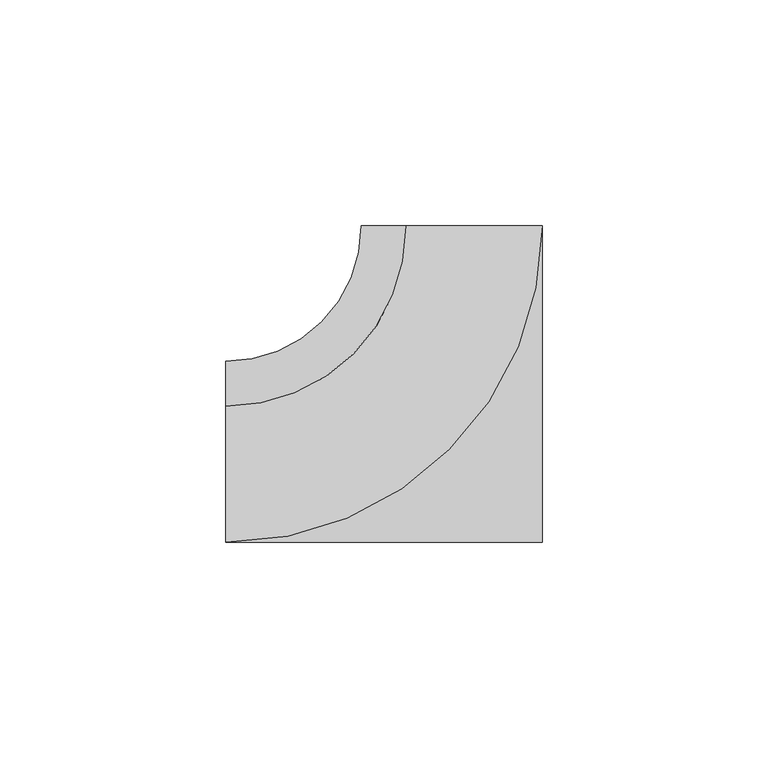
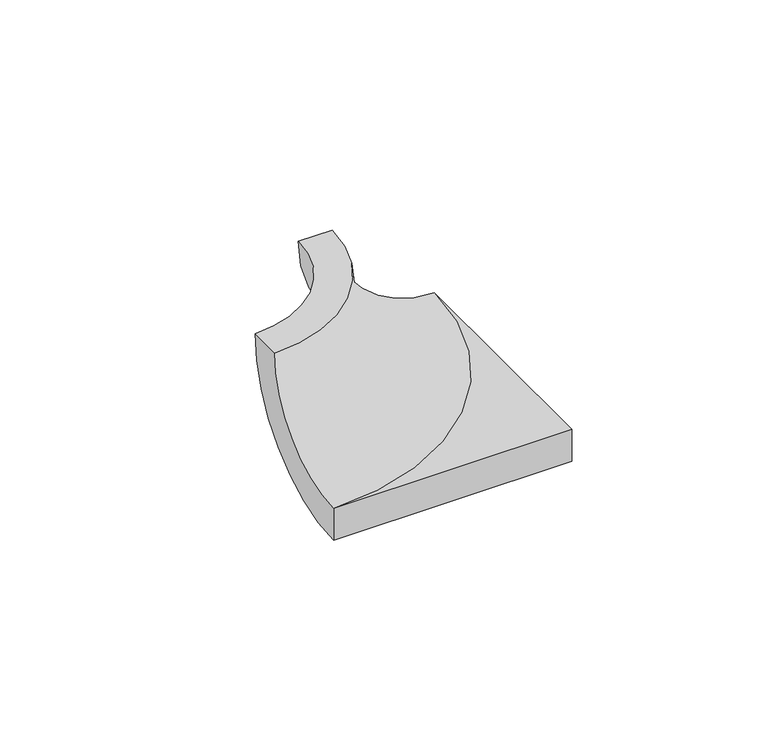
"""IFC4 building model written with IfcOpenShell, lengths in millimetres: proxy geometry, ROSA GRES_116 : Pieza 116_Aqua_Plomo_Liso."""

from ifc_helpers import new_model, si_unit, point, frame, origin, place, context, project, spatial, circle_curve, ellipse_curve, trimmed, source, transform, mapped, element, save
from ifc_brep_helpers import plane_surface, revolved_surface, advanced_brep


def generic_models_e9a23e22(model_context):
    return source(origin(), model_context, "Body", "AdvancedBrep", [
        advanced_brep(
        [(0.0, -30.0, 40.0), (30.0, 0.0, 40.0), (70.0, 0.0, 0.0), (0.0, -70.0, 0.0), (0.0, -69.9955547, 9.9734111), (69.9955547, 0.0, 9.9734111), (39.9734114, 0.0, 40.0), (0.0, -39.9734114, 40.0), (70.0, -70.0, 9.9734111), (70.0, -70.0, 0.0)],
        [
            (0, 1, circle_curve(frame((0.0, 0.0, 40.0), z_axis=(0.0, 0.0, 1.0), x_axis=(1.0, -7.84584653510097e-12, 0.0)), 30.0)),
            (1, 2, circle_curve(frame((70.0, 0.0, 40.0), z_axis=(-7.84584653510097e-12, -1.0, 0.0), x_axis=(-1.0, 7.84584653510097e-12, 0.0)), 40.0)),
            (2, 3, circle_curve(frame((0.0, 0.0, 0.0), z_axis=(0.0, 0.0, -1.0), x_axis=(1.0, -7.84584653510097e-12, 0.0)), 70.0)),
            (3, 0, circle_curve(frame((0.0, -70.0, 40.0), z_axis=(1.0, -7.844230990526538e-12, 0.0), x_axis=(7.844230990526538e-12, 1.0, 0.0)), 40.0)),
            (4, 5, circle_curve(frame((0.0, 0.0, 9.9734111), z_axis=(0.0, 0.0, 1.0), x_axis=(1.0, -7.84584653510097e-12, 0.0)), 69.9955547)),
            (5, 6, circle_curve(frame((69.9955547, 0.0, 39.9955547), z_axis=(7.84584653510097e-12, 1.0, 0.0), x_axis=(-1.0, 7.84584653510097e-12, 0.0)), 30.0221435)),
            (6, 7, circle_curve(frame((0.0, 0.0, 40.0), z_axis=(0.0, 0.0, -1.0), x_axis=(1.0, -7.84584653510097e-12, 0.0)), 39.9734114)),
            (7, 4, circle_curve(frame((0.0, -69.9955547, 39.9955547), z_axis=(-1.0, 7.844230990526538e-12, 0.0), x_axis=(7.844230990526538e-12, 1.0, 0.0)), 30.0221435)),
            (4, 8),
            (8, 5),
            (6, 1),
            (0, 7),
            (9, 3),
            (2, 9),
            (2, 5),
            (8, 9),
            (3, 4),
        ],
        [
            revolved_surface(trimmed(ellipse_curve(frame((70.0, 0.0, 40.0), z_axis=(7.84584653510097e-12, 1.0, 0.0), x_axis=(-1.0, 7.84584653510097e-12, 0.0)), 40.0, 40.0), [point((70.0, 0.0, 0.0))], [point((30.0, 0.0, 40.0))], True, "CARTESIAN"), (0.0, 0.0, -45.0), (0.0, 0.0, -1.0)),
            revolved_surface(trimmed(ellipse_curve(frame((69.9955547, 0.0, 39.9955547), z_axis=(-7.84584653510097e-12, -1.0, 0.0), x_axis=(-1.0, 7.84584653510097e-12, 0.0)), 30.0221435, 30.0221435), [point((39.9734114, 0.0, 40.0))], [point((69.9955547, 0.0, 9.9734111))], True, "CARTESIAN"), (0.0, 0.0, -45.0), (0.0, 0.0, -1.0)),
            plane_surface(frame((0.0, 0.0, 9.9734111), z_axis=(0.0, 0.0, 1.0), x_axis=(1.0, -7.84584653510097e-12, 0.0))),
            plane_surface(frame((70.0, -70.0, 40.0), z_axis=(0.0, 0.0, 1.0), x_axis=(7.847644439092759e-12, 1.0, 0.0))),
            plane_surface(frame((70.0, -70.0, 0.0), z_axis=(0.0, 0.0, -1.0), x_axis=(-7.847644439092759e-12, -1.0, 0.0))),
            plane_surface(frame((70.0, -70.0, 40.0), z_axis=(1.0, -7.847644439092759e-12, 0.0), x_axis=(0.0, 0.0, -1.0))),
            plane_surface(frame((70.0, 0.0, 40.0), z_axis=(7.847748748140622e-12, 1.0, 0.0), x_axis=(0.0, 0.0, -1.0))),
            plane_surface(frame((0.0, -29.9734114, 40.0), z_axis=(-1.0, 7.854283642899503e-12, 0.0), x_axis=(0.0, 0.0, -1.0))),
            plane_surface(frame((0.0, -70.0, 40.0), z_axis=(-7.849336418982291e-12, -1.0, 0.0), x_axis=(0.0, 0.0, -1.0))),
        ],
        [
            (0, [[1, 2, 3, 4]]),
            (1, [[5, 6, 7, 8]]),
            (2, [[-5, 9, 10]]),
            (3, [[11, -1, 12, -7]]),
            (4, [[13, -3, 14]]),
            (5, [[-14, 15, -10, 16]]),
            (6, [[-11, -6, -15, -2]]),
            (7, [[-12, -4, 17, -8]]),
            (8, [[-13, -16, -9, -17]]),
        ],
    ),
    ])


if __name__ == "__main__":
    model = new_model("IFC4")
    model_context = context("Model", 3, world=origin())
    ifc_project = project(units=[si_unit("LENGTHUNIT", "METRE", prefix="MILLI")], contexts=[model_context])
    site = spatial("IfcSite", under=ifc_project)
    building = spatial("IfcBuilding", under=site)
    placement = place(None, origin())
    generic_models_shape = generic_models_e9a23e22(model_context)
    element("IfcBuildingElementProxy", 1, Name="ROSA GRES_116 : Pieza 116_Aqua_Plomo_Liso", ObjectType="ROSA GRES_116 : Pieza 116_Aqua_Plomo_Liso", at=placement, inside=building, context=model_context, shape_type="MappedRepresentation", body=[
        mapped(generic_models_shape, transform((0.0, 0.0, 0.0), x_axis=(1.0, 0.0, 0.0), y_axis=(0.0, 1.0, 0.0), z_axis=(0.0, 0.0, 1.0))),
    ])
    save(model, "model.ifc")
